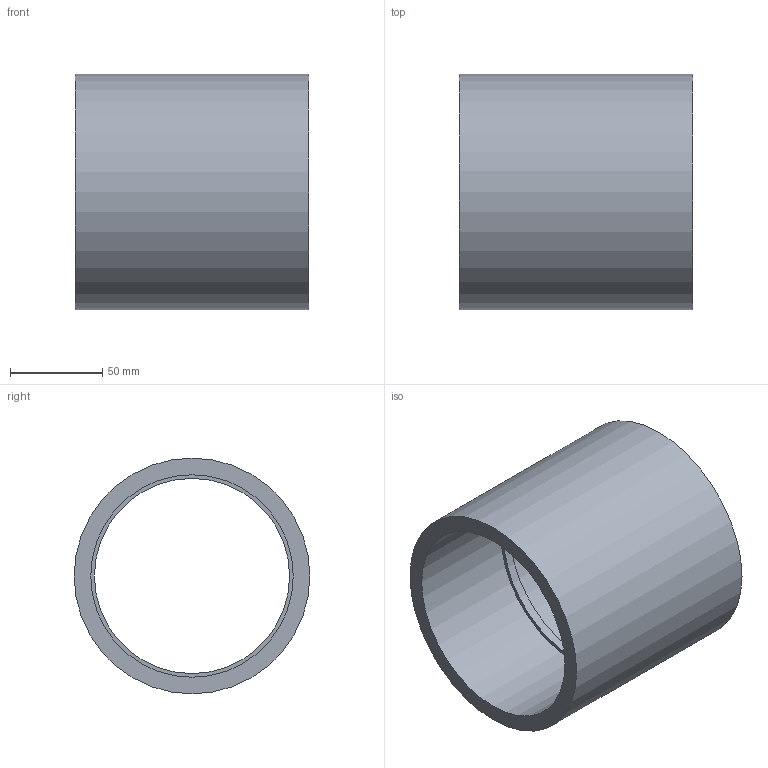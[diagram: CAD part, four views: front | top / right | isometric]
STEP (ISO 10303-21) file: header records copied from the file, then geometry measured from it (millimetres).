
FILE_DESCRIPTION(/* description */ ('PVC manicotti metrici incollaggio'),/* implementation_level */ '2;1');
FILE_NAME(/* name */ 'C:\Users\POLYPIPE\Desktop\DATASET INVENTOR\LIBRERIA EFFAST\RACCORDI 3DxWEB\RDR\3D_RDRMAD\3D_RDRMAD1100.stp',/* time_stamp */ '2018-01-19T14:39:25+01:00',/* author */ ('POLYPIPE'),/* organization */ ('Polypipe Italia s.r.l.'),/* preprocessor_version */ 'ST-DEVELOPER v16.1',/* originating_system */ 'Autodesk Inventor 2016',/* authorisation */ '');
FILE_SCHEMA (('CONFIG_CONTROL_DESIGN'));
Length unit declared in the file: millimetre
Products named in the file (1): 3D_RDRMAD
Bounding box: 127 x 128 x 128 mm (x, y, z)
Volume: 430702.9 mm3; surface area: 102981.4 mm2
Topology: 1 solids, 1 shells, 8 faces, 12 edges, 8 vertices
Faces by surface type: cylinder 4, plane 4
Full cylindrical faces by diameter (mm): 106 x1, 110 x2, 128 x1
Entity records: 192 total; most frequent: DIRECTION 34, CARTESIAN_POINT 25, AXIS2_PLACEMENT_3D 17, EDGE_LOOP 16, ORIENTED_EDGE 16, FACE_BOUND 8, FACE_OUTER_BOUND 8, CIRCLE 8
